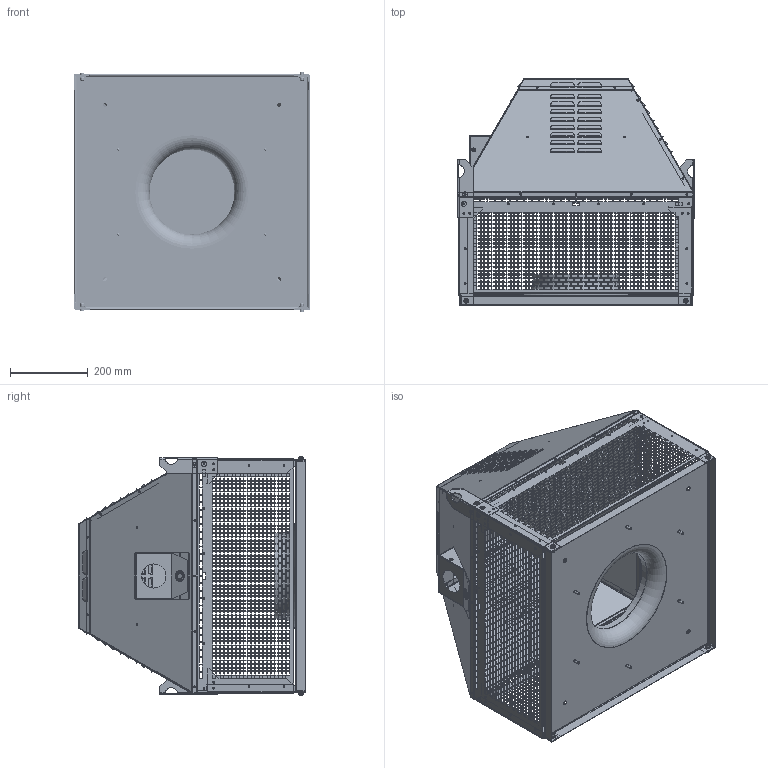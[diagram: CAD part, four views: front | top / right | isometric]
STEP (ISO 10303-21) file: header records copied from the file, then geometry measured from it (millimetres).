
FILE_DESCRIPTION (( 'STEP AP203' ), '1' );
FILE_NAME ('150549-00_DHN355D4F430_step.step', '2019-05-10T10:41:59', ( '' ), ( '' ), 'SwSTEP 2.0', 'SolidWorks 2017', '' );
FILE_SCHEMA (( 'CONFIG_CONTROL_DESIGN' ));
Products named in the file (1): 150549-00_DHN355D4F430_step
Bounding box: 610.3 x 583.29 x 617.3 mm (x, y, z)
Surface area: 3211032.9 mm2 (no closed solid volume)
Topology: 0 solids, 55 shells, 6454 faces, 30744 edges, 20602 vertices
Faces by surface type: plane 5824, cylinder 317, bspline 281, torus 20, cone 12
Full cylindrical faces by diameter (mm): 3.2 x10, 4.2 x74, 4.5 x62, 6 x10, 7.4 x6, 9 x4, 10 x2, 11 x4, 12 x4, 13 x8, 16 x1, 27.5 x1, 62 x1, 219 x1, 221 x1
Entity records: 355716 total; most frequent: CARTESIAN_POINT 114599, ORIENTED_EDGE 45130, DIRECTION 42397, EDGE_CURVE 30410, VECTOR 28535, LINE 28535, VERTEX_POINT 20601, EDGE_LOOP 11830
